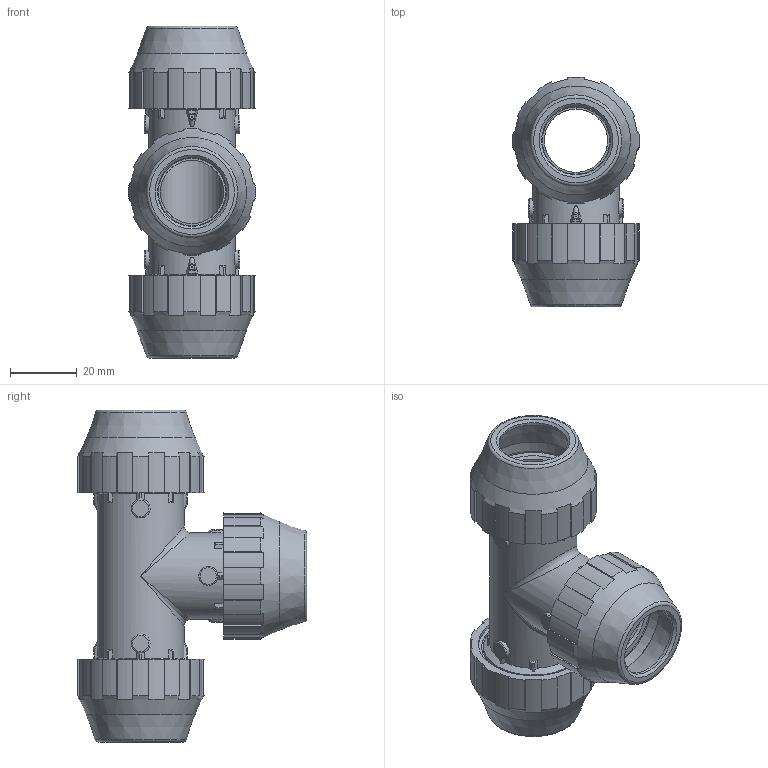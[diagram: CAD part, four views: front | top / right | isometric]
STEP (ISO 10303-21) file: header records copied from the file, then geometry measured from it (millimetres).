
FILE_DESCRIPTION( ( 'STEP AP214' ), '1' );
FILE_NAME( ' ', ' ', ( ' ' ), ( ' ' ), 'PSStep 11.0', 'VISI 17.0', ' ' );
FILE_SCHEMA( ( 'AUTOMOTIVE_DESIGN { 1 0 10303 214 1 1 1 1 }' ) );
Length unit declared in the file: millimetre
Products named in the file (13): 1; 2; 3; 4; 5; 6; 7; 8; 9; 10; 11; 12; 13
Bounding box: 37.96 x 68.73 x 99.5 mm (x, y, z)
Volume: 43259.5 mm3; surface area: 43697.5 mm2
Topology: 13 solids, 13 shells, 453 faces, 1216 edges, 801 vertices
Faces by surface type: plane 228, cylinder 181, cone 21, torus 21, bspline 2
Full cylindrical faces by diameter (mm): 5.633 x6, 19 x2, 20.6 x6, 24.9 x3, 26 x2, 29.88 x3, 31 x3, 33 x6
Entity records: 18574 total; most frequent: CARTESIAN_POINT 3526, DIRECTION 2488, ORIENTED_EDGE 2220, EDGE_CURVE 1110, AXIS2_PLACEMENT_3D 986, VERTEX_POINT 772, EDGE_LOOP 558, LINE 516
